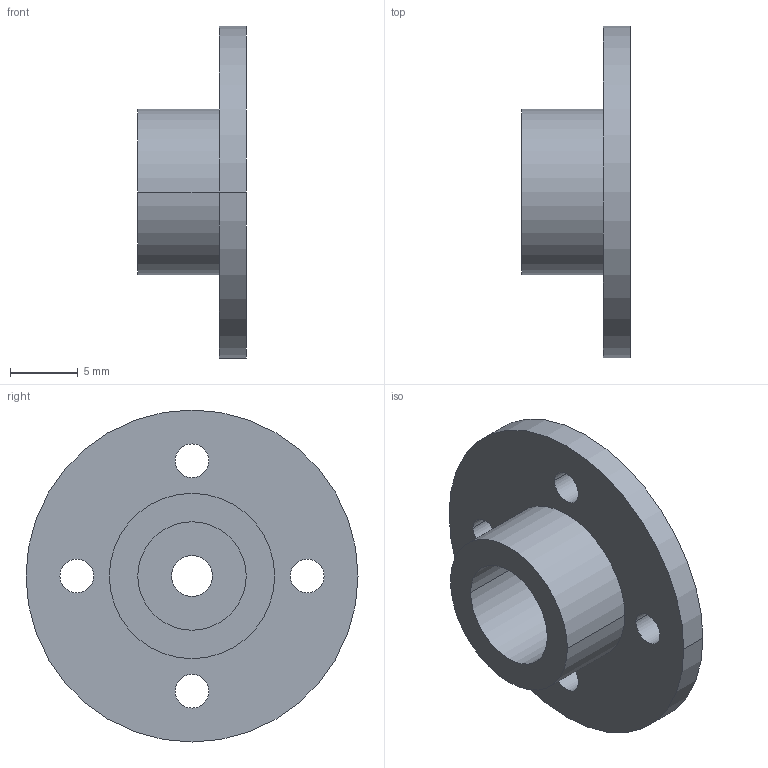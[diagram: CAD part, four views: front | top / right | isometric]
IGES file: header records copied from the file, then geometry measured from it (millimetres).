
Start section: START RECORD GO HERE.
Global section: file name: 3.igs; native system: DASSAULT SYSTEMES CATIA V5 R21 - www.3ds.com; preprocessor: 27HCATIA Version 5 Release 21; author: E___; organization: MSI; date: 20160804.145006; units: millimetre
Bounding box: 8 x 24.5 x 24.5 mm (x, y, z)
Surface area: 1521.6 mm2 (no closed solid volume)
Topology: 0 solids, 0 shells, 20 faces, 96 edges, 96 vertices
Faces by surface type: revolution 16, plane 4
